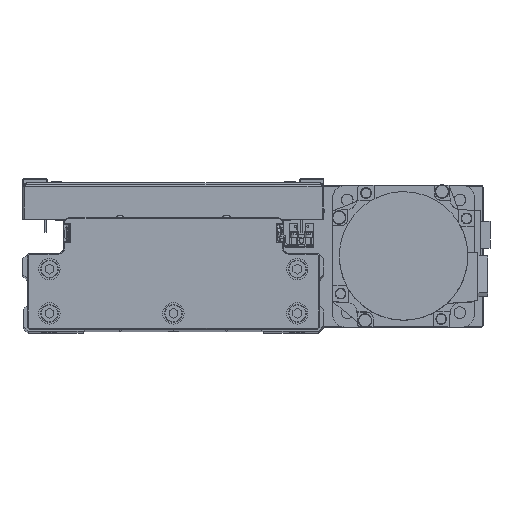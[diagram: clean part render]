
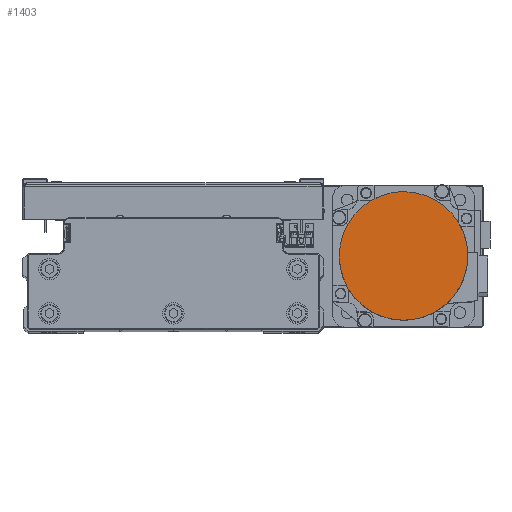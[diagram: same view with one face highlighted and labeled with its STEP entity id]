
A CAD part, top view. The second image highlights one B-rep face of the part: STEP entity #1403.
In plain terms, the highlighted planar face has unit normal (0, 0, 1) as drawn and (0, 0, -1) by its records, which use the part's own axes.
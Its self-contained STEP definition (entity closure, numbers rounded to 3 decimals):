
#585 = CARTESIAN_POINT ( 'NONE',  ( -28.862, -22.143, -122.2 ) ) ;
#967 = FACE_OUTER_BOUND ( 'NONE', #3247, .T. ) ;
#1403 = ADVANCED_FACE ( 'NONE', ( #967 ), #14699, .F. ) ;
#2701 = VERTEX_POINT ( 'NONE', #35857 ) ;
#2998 = EDGE_CURVE ( 'NONE', #18633, #2701, #41521, .T. ) ;
#3087 = CARTESIAN_POINT ( 'NONE',  ( -16.086, 32.628, -122.2 ) ) ;
#3247 = EDGE_LOOP ( 'NONE', ( #36809, #11373, #13867, #19970 ) ) ;
#3529 = CIRCLE ( 'NONE', #28703, 36.3 ) ;
#3964 = CARTESIAN_POINT ( 'NONE',  ( -34.446, -11.696, -122.2 ) ) ;
#4202 = CARTESIAN_POINT ( 'NONE',  ( 0., -36.3, -122.2 ) ) ;
#6333 = EDGE_CURVE ( 'NONE', #2701, #43284, #43230, .T. ) ;
#6476 = CARTESIAN_POINT ( 'NONE',  ( -4.752, 36.066, -122.2 ) ) ;
#6695 = CARTESIAN_POINT ( 'NONE',  ( -36.066, 4.752, -122.2 ) ) ;
#7077 = DIRECTION ( 'NONE',  ( 0., 0., 1. ) ) ;
#7348 = CARTESIAN_POINT ( 'NONE',  ( -36.3, -2.376, -122.2 ) ) ;
#7569 = CARTESIAN_POINT ( 'NONE',  ( -9.412, -35.139, -122.2 ) ) ;
#10082 = CARTESIAN_POINT ( 'NONE',  ( -32.628, 16.086, -122.2 ) ) ;
#10954 = CARTESIAN_POINT ( 'NONE',  ( -18.192, -31.502, -122.2 ) ) ;
#11090 = CARTESIAN_POINT ( 'NONE',  ( 0., 0., -122.2 ) ) ;
#11342 = DIRECTION ( 'NONE',  ( 1., 0., 0. ) ) ;
#11373 = ORIENTED_EDGE ( 'NONE', *, *, #2998, .F. ) ;
#13074 = EDGE_CURVE ( 'NONE', #43284, #18888, #3529, .T. ) ;
#13460 = CARTESIAN_POINT ( 'NONE',  ( -27.348, 23.988, -122.2 ) ) ;
#13867 = ORIENTED_EDGE ( 'NONE', *, *, #17542, .F. ) ;
#14317 = CARTESIAN_POINT ( 'NONE',  ( -27.348, -23.988, -122.2 ) ) ;
#14358 = CARTESIAN_POINT ( 'NONE',  ( 36.3, 0., -122.2 ) ) ;
#14699 = PLANE ( 'NONE',  #17859 ) ;
#16821 = CARTESIAN_POINT ( 'NONE',  ( -18.192, 31.502, -122.2 ) ) ;
#17542 = EDGE_CURVE ( 'NONE', #18888, #18633, #20337, .T. ) ;
#17689 = CARTESIAN_POINT ( 'NONE',  ( -32.628, -16.086, -122.2 ) ) ;
#17859 = AXIS2_PLACEMENT_3D ( 'NONE', #28430, #42156, #11342 ) ;
#18633 = VERTEX_POINT ( 'NONE', #27158 ) ;
#18888 = VERTEX_POINT ( 'NONE', #36331 ) ;
#19970 = ORIENTED_EDGE ( 'NONE', *, *, #13074, .F. ) ;
#20197 = CARTESIAN_POINT ( 'NONE',  ( -9.412, 35.139, -122.2 ) ) ;
#20337 = B_SPLINE_CURVE_WITH_KNOTS ( 'NONE', 3,
 ( #23583, #37298, #6476, #20197, #33908, #3087, #16821, #30543, #44282, #13460, #27182, #40903, #10082, #23804, #37515, #6695, #20424, #34133 ),
 .UNSPECIFIED., .F., .F.,
 ( 4, 2, 2, 2, 2, 2, 2, 2, 4 ),
 ( 0., 0.125, 0.25, 0.375, 0.5, 0.625, 0.75, 0.875, 1. ),
 .UNSPECIFIED. ) ;
#20424 = CARTESIAN_POINT ( 'NONE',  ( -36.3, 2.376, -122.2 ) ) ;
#20802 = DIRECTION ( 'NONE',  ( -1., 0., 0. ) ) ;
#21079 = CARTESIAN_POINT ( 'NONE',  ( -36.066, -4.752, -122.2 ) ) ;
#21302 = CARTESIAN_POINT ( 'NONE',  ( -4.752, -36.066, -122.2 ) ) ;
#23583 = CARTESIAN_POINT ( 'NONE',  ( 0., 36.3, -122.2 ) ) ;
#23804 = CARTESIAN_POINT ( 'NONE',  ( -34.446, 11.696, -122.2 ) ) ;
#23831 = AXIS2_PLACEMENT_3D ( 'NONE', #11090, #24809, #38527 ) ;
#24675 = CARTESIAN_POINT ( 'NONE',  ( -16.086, -32.628, -122.2 ) ) ;
#24809 = DIRECTION ( 'NONE',  ( 0., 0., 1. ) ) ;
#27158 = CARTESIAN_POINT ( 'NONE',  ( -36.3, 0., -122.2 ) ) ;
#27182 = CARTESIAN_POINT ( 'NONE',  ( -28.862, 22.143, -122.2 ) ) ;
#28045 = CARTESIAN_POINT ( 'NONE',  ( -23.988, -27.348, -122.2 ) ) ;
#28430 = CARTESIAN_POINT ( 'NONE',  ( 0., 0., -122.2 ) ) ;
#28703 = AXIS2_PLACEMENT_3D ( 'NONE', #37888, #7077, #20802 ) ;
#30543 = CARTESIAN_POINT ( 'NONE',  ( -22.143, 28.862, -122.2 ) ) ;
#31425 = CARTESIAN_POINT ( 'NONE',  ( -31.502, -18.192, -122.2 ) ) ;
#33908 = CARTESIAN_POINT ( 'NONE',  ( -11.696, 34.446, -122.2 ) ) ;
#34133 = CARTESIAN_POINT ( 'NONE',  ( -36.3, 0., -122.2 ) ) ;
#34791 = CARTESIAN_POINT ( 'NONE',  ( -35.139, -9.412, -122.2 ) ) ;
#35018 = CARTESIAN_POINT ( 'NONE',  ( -2.376, -36.3, -122.2 ) ) ;
#35857 = CARTESIAN_POINT ( 'NONE',  ( 0., -36.3, -122.2 ) ) ;
#36331 = CARTESIAN_POINT ( 'NONE',  ( 0., 36.3, -122.2 ) ) ;
#36809 = ORIENTED_EDGE ( 'NONE', *, *, #6333, .F. ) ;
#37298 = CARTESIAN_POINT ( 'NONE',  ( -2.376, 36.3, -122.2 ) ) ;
#37515 = CARTESIAN_POINT ( 'NONE',  ( -35.139, 9.412, -122.2 ) ) ;
#37888 = CARTESIAN_POINT ( 'NONE',  ( 0., 0., -122.2 ) ) ;
#38158 = CARTESIAN_POINT ( 'NONE',  ( -36.3, 0., -122.2 ) ) ;
#38392 = CARTESIAN_POINT ( 'NONE',  ( -11.696, -34.446, -122.2 ) ) ;
#38527 = DIRECTION ( 'NONE',  ( -1., 0., 0. ) ) ;
#40903 = CARTESIAN_POINT ( 'NONE',  ( -31.502, 18.192, -122.2 ) ) ;
#41521 = B_SPLINE_CURVE_WITH_KNOTS ( 'NONE', 3,
 ( #38158, #7348, #21079, #34791, #3964, #17689, #31425, #585, #14317, #28045, #41762, #10954, #24675, #38392, #7569, #21302, #35018, #4202 ),
 .UNSPECIFIED., .F., .F.,
 ( 4, 2, 2, 2, 2, 2, 2, 2, 4 ),
 ( 0., 0.125, 0.25, 0.375, 0.5, 0.625, 0.75, 0.875, 1. ),
 .UNSPECIFIED. ) ;
#41762 = CARTESIAN_POINT ( 'NONE',  ( -22.143, -28.862, -122.2 ) ) ;
#42156 = DIRECTION ( 'NONE',  ( 0., 0., 1. ) ) ;
#43230 = CIRCLE ( 'NONE', #23831, 36.3 ) ;
#43284 = VERTEX_POINT ( 'NONE', #14358 ) ;
#44282 = CARTESIAN_POINT ( 'NONE',  ( -23.988, 27.348, -122.2 ) ) ;
